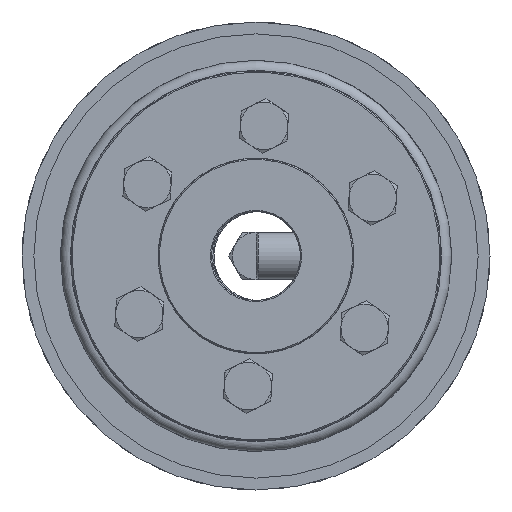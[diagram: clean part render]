
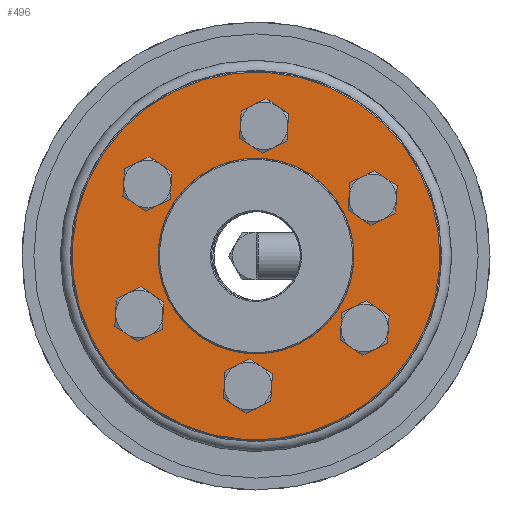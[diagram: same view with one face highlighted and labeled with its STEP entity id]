
A CAD part, left-side view. The second image highlights one B-rep face of the part: STEP entity #496.
In plain terms, the highlighted planar face has unit normal (-1, 0, 0).
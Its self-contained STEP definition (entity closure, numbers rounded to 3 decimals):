
#496 = ADVANCED_FACE( 'NONE', ( #760, #761, #762, #763, #764, #765, #766, #767 ), #768, .F. );
#760 = FACE_OUTER_BOUND( '', #1240, .T. );
#761 = FACE_BOUND( '', #1241, .T. );
#762 = FACE_BOUND( '', #1242, .T. );
#763 = FACE_BOUND( '', #1243, .T. );
#764 = FACE_BOUND( '', #1244, .T. );
#765 = FACE_BOUND( '', #1245, .T. );
#766 = FACE_BOUND( '', #1246, .T. );
#767 = FACE_BOUND( '', #1247, .T. );
#768 = PLANE( '', #1248 );
#1240 = EDGE_LOOP( '', ( #1751 ) );
#1241 = EDGE_LOOP( '', ( #1752 ) );
#1242 = EDGE_LOOP( '', ( #1753 ) );
#1243 = EDGE_LOOP( '', ( #1754 ) );
#1244 = EDGE_LOOP( '', ( #1755 ) );
#1245 = EDGE_LOOP( '', ( #1756 ) );
#1246 = EDGE_LOOP( '', ( #1757 ) );
#1247 = EDGE_LOOP( '', ( #1758 ) );
#1248 = AXIS2_PLACEMENT_3D( '', #1759, #1760, #1761 );
#1751 = ORIENTED_EDGE( '', *, *, #2974, .T. );
#1752 = ORIENTED_EDGE( '', *, *, #2963, .T. );
#1753 = ORIENTED_EDGE( '', *, *, #2975, .T. );
#1754 = ORIENTED_EDGE( '', *, *, #2976, .T. );
#1755 = ORIENTED_EDGE( '', *, *, #2972, .T. );
#1756 = ORIENTED_EDGE( '', *, *, #2977, .T. );
#1757 = ORIENTED_EDGE( '', *, *, #2978, .T. );
#1758 = ORIENTED_EDGE( '', *, *, #2973, .F. );
#1759 = CARTESIAN_POINT( '', ( 0., 16.5, 0. ) );
#1760 = DIRECTION( '', ( 1., 0., 0. ) );
#1761 = DIRECTION( '', ( 0., 1., 0. ) );
#2963 = EDGE_CURVE( 'NONE', #3217, #3217, #3218, .T. );
#2972 = EDGE_CURVE( 'NONE', #3235, #3235, #3236, .T. );
#2973 = EDGE_CURVE( 'NONE', #3237, #3237, #3238, .T. );
#2974 = EDGE_CURVE( 'NONE', #3239, #3239, #3240, .T. );
#2975 = EDGE_CURVE( 'NONE', #3241, #3241, #3242, .T. );
#2976 = EDGE_CURVE( 'NONE', #3243, #3243, #3244, .T. );
#2977 = EDGE_CURVE( 'NONE', #3245, #3245, #3246, .T. );
#2978 = EDGE_CURVE( 'NONE', #3247, #3247, #3248, .T. );
#3217 = VERTEX_POINT( '', #3623 );
#3218 = CIRCLE( '', #3624, 2.75 );
#3235 = VERTEX_POINT( '', #3641 );
#3236 = CIRCLE( '', #3642, 2.75 );
#3237 = VERTEX_POINT( '', #3643 );
#3238 = CIRCLE( '', #3644, 16.5 );
#3239 = VERTEX_POINT( '', #3645 );
#3240 = CIRCLE( '', #3646, 31.05 );
#3241 = VERTEX_POINT( '', #3647 );
#3242 = CIRCLE( '', #3648, 2.75 );
#3243 = VERTEX_POINT( '', #3649 );
#3244 = CIRCLE( '', #3650, 2.75 );
#3245 = VERTEX_POINT( '', #3651 );
#3246 = CIRCLE( '', #3652, 2.75 );
#3247 = VERTEX_POINT( '', #3653 );
#3248 = CIRCLE( '', #3654, 2.75 );
#3623 = CARTESIAN_POINT( '', ( 0., 11., 16.303 ) );
#3624 = AXIS2_PLACEMENT_3D( '', #4301, #4302, #4303 );
#3641 = CARTESIAN_POINT( '', ( 0., -11., -21.803 ) );
#3642 = AXIS2_PLACEMENT_3D( '', #4328, #4329, #4330 );
#3643 = CARTESIAN_POINT( '', ( 0., 0., 16.5 ) );
#3644 = AXIS2_PLACEMENT_3D( '', #4331, #4332, #4333 );
#3645 = CARTESIAN_POINT( '', ( 0., 0., -31.05 ) );
#3646 = AXIS2_PLACEMENT_3D( '', #4334, #4335, #4336 );
#3647 = CARTESIAN_POINT( '', ( 0., -11., 16.303 ) );
#3648 = AXIS2_PLACEMENT_3D( '', #4337, #4338, #4339 );
#3649 = CARTESIAN_POINT( '', ( 0., -22., -2.75 ) );
#3650 = AXIS2_PLACEMENT_3D( '', #4340, #4341, #4342 );
#3651 = CARTESIAN_POINT( '', ( 0., 11., -21.803 ) );
#3652 = AXIS2_PLACEMENT_3D( '', #4343, #4344, #4345 );
#3653 = CARTESIAN_POINT( '', ( 0., 22., -2.75 ) );
#3654 = AXIS2_PLACEMENT_3D( '', #4346, #4347, #4348 );
#4301 = CARTESIAN_POINT( '', ( 0., 11., 19.053 ) );
#4302 = DIRECTION( '', ( 1., 0., 0. ) );
#4303 = DIRECTION( '', ( 0., 0., -1. ) );
#4328 = CARTESIAN_POINT( '', ( 0., -11., -19.053 ) );
#4329 = DIRECTION( '', ( 1., 0., 0. ) );
#4330 = DIRECTION( '', ( 0., 0., -1. ) );
#4331 = CARTESIAN_POINT( '', ( 0., 0., 0. ) );
#4332 = DIRECTION( '', ( -1., 0., 0. ) );
#4333 = DIRECTION( '', ( 0., 0., 1. ) );
#4334 = CARTESIAN_POINT( '', ( 0., 0., 0. ) );
#4335 = DIRECTION( '', ( -1., 0., 0. ) );
#4336 = DIRECTION( '', ( 0., 0., -1. ) );
#4337 = CARTESIAN_POINT( '', ( 0., -11., 19.053 ) );
#4338 = DIRECTION( '', ( 1., 0., 0. ) );
#4339 = DIRECTION( '', ( 0., 0., -1. ) );
#4340 = CARTESIAN_POINT( '', ( 0., -22., 0. ) );
#4341 = DIRECTION( '', ( 1., 0., 0. ) );
#4342 = DIRECTION( '', ( 0., 0., -1. ) );
#4343 = CARTESIAN_POINT( '', ( 0., 11., -19.053 ) );
#4344 = DIRECTION( '', ( 1., 0., 0. ) );
#4345 = DIRECTION( '', ( 0., 0., -1. ) );
#4346 = CARTESIAN_POINT( '', ( 0., 22., 0. ) );
#4347 = DIRECTION( '', ( 1., 0., 0. ) );
#4348 = DIRECTION( '', ( 0., 0., -1. ) );
